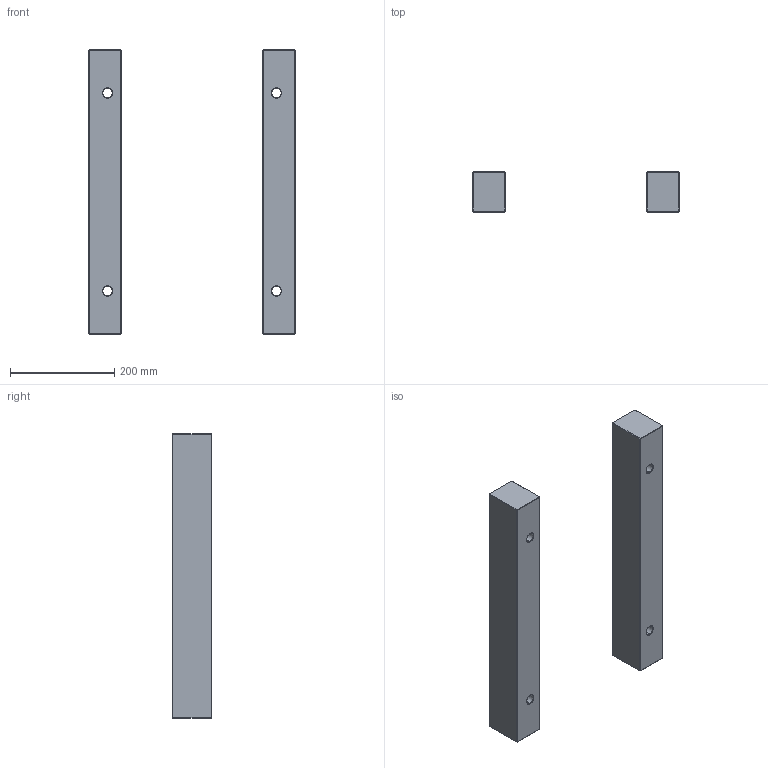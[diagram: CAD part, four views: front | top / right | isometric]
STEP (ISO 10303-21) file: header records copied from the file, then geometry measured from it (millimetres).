
FILE_DESCRIPTION (( 'STEP AP214' ), '1' );
FILE_NAME ('ESP-396X546x76.STEP', '2020-04-14T08:47:54', ( 'August' ), ( '' ), 'SwSTEP 2.0', 'SolidWorks 2018', '' );
FILE_SCHEMA (( 'AUTOMOTIVE_DESIGN' ));
Length unit declared in the file: millimetre
Products named in the file (1): ESP-396X546x76
Bounding box: 396 x 76 x 546 mm (x, y, z)
Volume: 5065185.5 mm3; surface area: 331929 mm2
Topology: 2 solids, 2 shells, 76 faces, 152 edges, 80 vertices
Faces by surface type: plane 52, cone 16, cylinder 8
Entity records: 1935 total; most frequent: DIRECTION 338, CARTESIAN_POINT 309, ORIENTED_EDGE 304, EDGE_CURVE 152, LINE 120, VECTOR 120, AXIS2_PLACEMENT_3D 109, EDGE_LOOP 84
